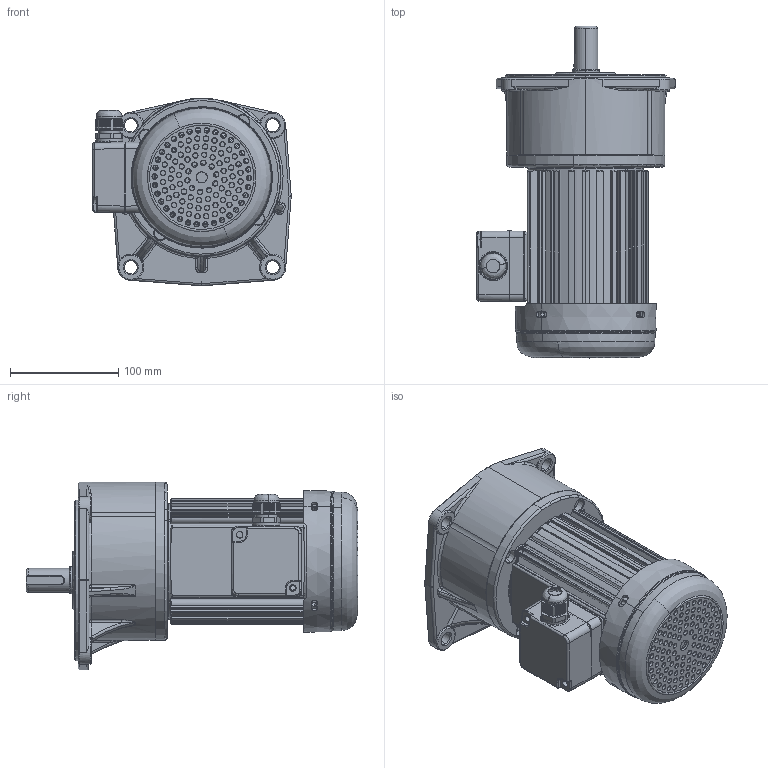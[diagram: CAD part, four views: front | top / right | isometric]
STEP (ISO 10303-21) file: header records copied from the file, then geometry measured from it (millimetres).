
FILE_DESCRIPTION (( 'STEP AP203' ), '1' );
FILE_NAME ('×°ÅäÌå12.STEP', '2020-04-17T02:14:36', ( '' ), ( '' ), 'SwSTEP 2.0', 'SolidWorks 2019', '' );
FILE_SCHEMA (( 'CONFIG_CONTROL_DESIGN' ));
Length unit declared in the file: millimetre
Products named in the file (3): 200W饜2#蕾宒; 2#蕾宒熬厒ん; 蚾饜极12
Assembly tree (2 placements, depth 2):
  蚾饜极12
    200W饜2#蕾宒
    2#蕾宒熬厒ん
Bounding box: 182.95 x 305.99 x 172.99 mm (x, y, z)
Volume: 1308119.9 mm3; surface area: 445544 mm2
Topology: 1 solids, 10 shells, 2615 faces, 6901 edges, 4312 vertices
Faces by surface type: bspline 769, cylinder 759, plane 607, torus 251, cone 185, sphere 44
Entity records: 128606 total; most frequent: CARTESIAN_POINT 73123, ORIENTED_EDGE 13620, DIRECTION 8238, EDGE_CURVE 6840, VERTEX_POINT 4316, B_SPLINE_CURVE_WITH_KNOTS 3850, AXIS2_PLACEMENT_3D 3517, EDGE_LOOP 2993
